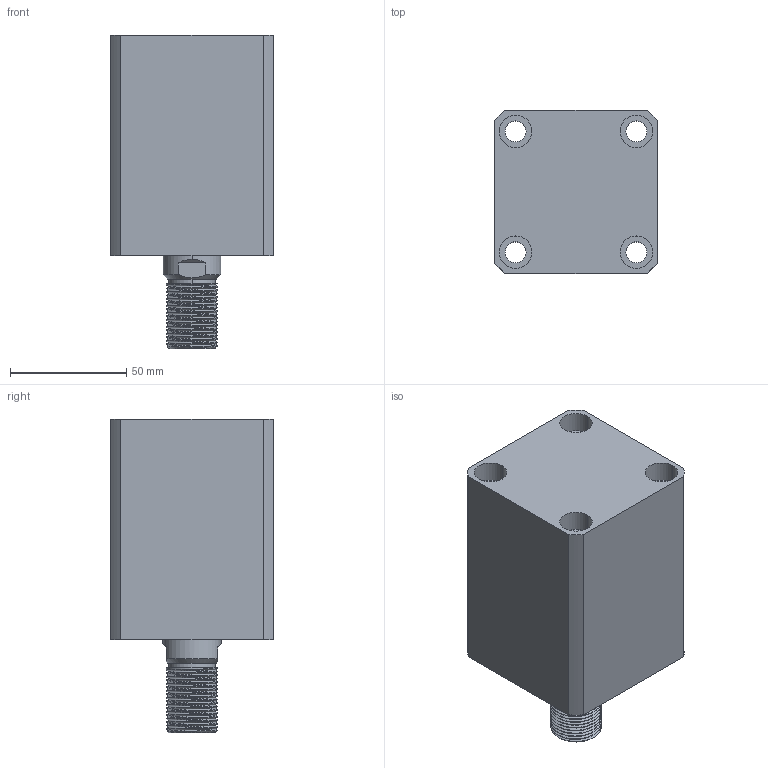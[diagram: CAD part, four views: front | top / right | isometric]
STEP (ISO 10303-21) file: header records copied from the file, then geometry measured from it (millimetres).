
FILE_DESCRIPTION (( 'STEP AP214' ), '1' );
FILE_NAME ('chtb-sd40x40w_asm.STEP', '2018-06-08T06:59:01', ( 'Windows' ), ( 'Microsoft' ), 'SwSTEP 2.0', 'SolidWorks 2015', '' );
FILE_SCHEMA (( 'AUTOMOTIVE_DESIGN' ));
Length unit declared in the file: millimetre
Products named in the file (4): CHTB-SD40X40NBT; CHTB-SD40QG; chtb-sd40x40w_asm; CHTB-SD40X40WHSG
Assembly tree (3 placements, depth 2):
  chtb-sd40x40w_asm
    CHTB-SD40QG
    CHTB-SD40X40NBT
    CHTB-SD40X40WHSG
Bounding box: 70 x 70 x 135 mm (x, y, z)
Volume: 409661.8 mm3; surface area: 84893.6 mm2
Topology: 3 solids, 4 shells, 203 faces, 533 edges, 355 vertices
Faces by surface type: cylinder 118, plane 40, bspline 16, cone 15, torus 14
Entity records: 13425 total; most frequent: CARTESIAN_POINT 8554, ORIENTED_EDGE 1054, DIRECTION 914, EDGE_CURVE 527, AXIS2_PLACEMENT_3D 380, VERTEX_POINT 355, EDGE_LOOP 240, FACE_OUTER_BOUND 203
